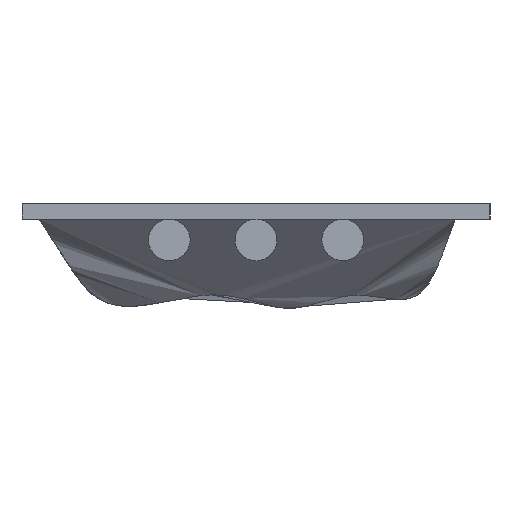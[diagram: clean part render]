
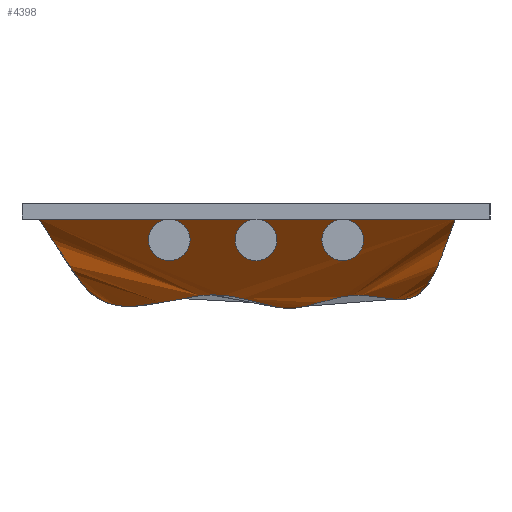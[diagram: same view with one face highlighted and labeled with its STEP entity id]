
A CAD part, left-side view. The second image highlights one B-rep face of the part: STEP entity #4398.
In plain terms, the highlighted free-form (B-spline) face has degree [3, 1] with [13, 2] control points.
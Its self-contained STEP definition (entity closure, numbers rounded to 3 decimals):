
#85=B_SPLINE_SURFACE_WITH_KNOTS('',3,1,((#8956,#8957),(#8958,#8959),(#8960,
#8961),(#8962,#8963),(#8964,#8965),(#8966,#8967),(#8968,#8969),(#8970,#8971),
(#8972,#8973),(#8974,#8975),(#8976,#8977),(#8978,#8979),(#8980,#8981)),
 .SURF_OF_LINEAR_EXTRUSION.,.F.,.F.,.F.,(4,1,1,1,1,1,1,1,1,1,4),(2,2),(0.,
0.225,0.337,0.449,0.562,
0.674,0.73,0.786,0.814,
0.842,0.899),(0.,1.),.UNSPECIFIED.);
#183=B_SPLINE_CURVE_WITH_KNOTS('',3,(#8892,#8893,#8894,#8895,#8896,#8897,
#8898,#8899,#8900,#8901,#8902,#8903,#8904,#8905,#8906,#8907,#8908,#8909,
#8910,#8911,#8912,#8913,#8914,#8915,#8916,#8917,#8918,#8919,#8920,#8921),
 .UNSPECIFIED.,.F.,.F.,(4,1,1,1,1,1,1,1,1,1,1,1,1,1,1,1,1,1,1,1,1,1,1,1,
1,1,1,4),(0.,0.001,0.001,
0.002,0.002,0.003,0.003,
0.004,0.004,0.005,0.005,
0.006,0.006,0.007,0.007,
0.008,0.009,0.01,0.011,
0.011,0.012,0.012,0.013,
0.013,0.014,0.014,0.015,
0.016),.UNSPECIFIED.);
#1377=ORIENTED_EDGE('',*,*,#1977,.T.);
#1378=ORIENTED_EDGE('',*,*,#1974,.F.);
#1974=EDGE_CURVE('',#2380,#2381,#183,.T.);
#1977=EDGE_CURVE('',#2380,#2381,#2881,.T.);
#2380=VERTEX_POINT('',#8891);
#2381=VERTEX_POINT('',#8922);
#2881=LINE('',#8954,#3381);
#3381=VECTOR('',#5611,1000.);
#3669=EDGE_LOOP('',(#1377,#1378));
#3957=FACE_BOUND('',#3669,.T.);
#4398=ADVANCED_FACE('',(#3957),#85,.T.);
#5611=DIRECTION('',(1.,0.,0.));
#8891=CARTESIAN_POINT('',(0.,0.,0.));
#8892=CARTESIAN_POINT('',(0.,0.,0.));
#8893=CARTESIAN_POINT('',(0.071,0.196,-0.26));
#8894=CARTESIAN_POINT('',(0.173,0.461,-0.683));
#8895=CARTESIAN_POINT('',(0.376,1.02,-0.988));
#8896=CARTESIAN_POINT('',(0.547,1.451,-1.199));
#8897=CARTESIAN_POINT('',(0.683,1.716,-1.599));
#8898=CARTESIAN_POINT('',(0.842,2.007,-1.985));
#8899=CARTESIAN_POINT('',(1.241,2.321,-2.149));
#8900=CARTESIAN_POINT('',(1.757,2.325,-2.16));
#8901=CARTESIAN_POINT('',(2.248,2.228,-2.098));
#8902=CARTESIAN_POINT('',(2.747,2.174,-2.065));
#8903=CARTESIAN_POINT('',(3.246,2.222,-2.094));
#8904=CARTESIAN_POINT('',(3.749,2.343,-2.169));
#8905=CARTESIAN_POINT('',(4.225,2.503,-2.277));
#8906=CARTESIAN_POINT('',(4.722,2.601,-2.442));
#8907=CARTESIAN_POINT('',(5.235,2.539,-2.325));
#8908=CARTESIAN_POINT('',(5.874,2.369,-2.176));
#8909=CARTESIAN_POINT('',(6.686,2.126,-2.038));
#8910=CARTESIAN_POINT('',(7.737,2.238,-2.104));
#8911=CARTESIAN_POINT('',(8.572,2.437,-2.227));
#8912=CARTESIAN_POINT('',(9.251,2.528,-2.325));
#8913=CARTESIAN_POINT('',(9.784,2.509,-2.297));
#8914=CARTESIAN_POINT('',(10.271,2.345,-2.158));
#8915=CARTESIAN_POINT('',(10.664,2.011,-1.991));
#8916=CARTESIAN_POINT('',(10.889,1.719,-1.603));
#8917=CARTESIAN_POINT('',(11.081,1.446,-1.195));
#8918=CARTESIAN_POINT('',(11.352,1.023,-0.989));
#8919=CARTESIAN_POINT('',(11.699,0.483,-0.702));
#8920=CARTESIAN_POINT('',(11.876,0.2,-0.265));
#8921=CARTESIAN_POINT('',(12.,0.,0.));
#8922=CARTESIAN_POINT('',(12.,0.,0.));
#8954=CARTESIAN_POINT('',(0.,0.,0.));
#8956=CARTESIAN_POINT('',(12.072,0.,0.));
#8957=CARTESIAN_POINT('',(-0.072,0.,0.));
#8958=CARTESIAN_POINT('',(12.072,0.201,-0.266));
#8959=CARTESIAN_POINT('',(-0.072,0.201,-0.266));
#8960=CARTESIAN_POINT('',(12.072,0.44,-0.647));
#8961=CARTESIAN_POINT('',(-0.072,0.44,-0.647));
#8962=CARTESIAN_POINT('',(12.072,0.951,-0.959));
#8963=CARTESIAN_POINT('',(-0.072,0.951,-0.959));
#8964=CARTESIAN_POINT('',(12.072,1.389,-1.157));
#8965=CARTESIAN_POINT('',(-0.072,1.389,-1.157));
#8966=CARTESIAN_POINT('',(12.072,1.681,-1.519));
#8967=CARTESIAN_POINT('',(-0.072,1.681,-1.519));
#8968=CARTESIAN_POINT('',(12.072,1.893,-1.872));
#8969=CARTESIAN_POINT('',(-0.072,1.893,-1.872));
#8970=CARTESIAN_POINT('',(12.072,2.174,-2.069));
#8971=CARTESIAN_POINT('',(-0.072,2.174,-2.069));
#8972=CARTESIAN_POINT('',(12.072,2.355,-2.173));
#8973=CARTESIAN_POINT('',(-0.072,2.355,-2.173));
#8974=CARTESIAN_POINT('',(12.072,2.483,-2.273));
#8975=CARTESIAN_POINT('',(-0.072,2.483,-2.273));
#8976=CARTESIAN_POINT('',(12.072,2.553,-2.353));
#8977=CARTESIAN_POINT('',(-0.072,2.553,-2.353));
#8978=CARTESIAN_POINT('',(12.072,2.57,-2.384));
#8979=CARTESIAN_POINT('',(-0.072,2.57,-2.384));
#8980=CARTESIAN_POINT('',(12.072,2.584,-2.414));
#8981=CARTESIAN_POINT('',(-0.072,2.584,-2.414));
